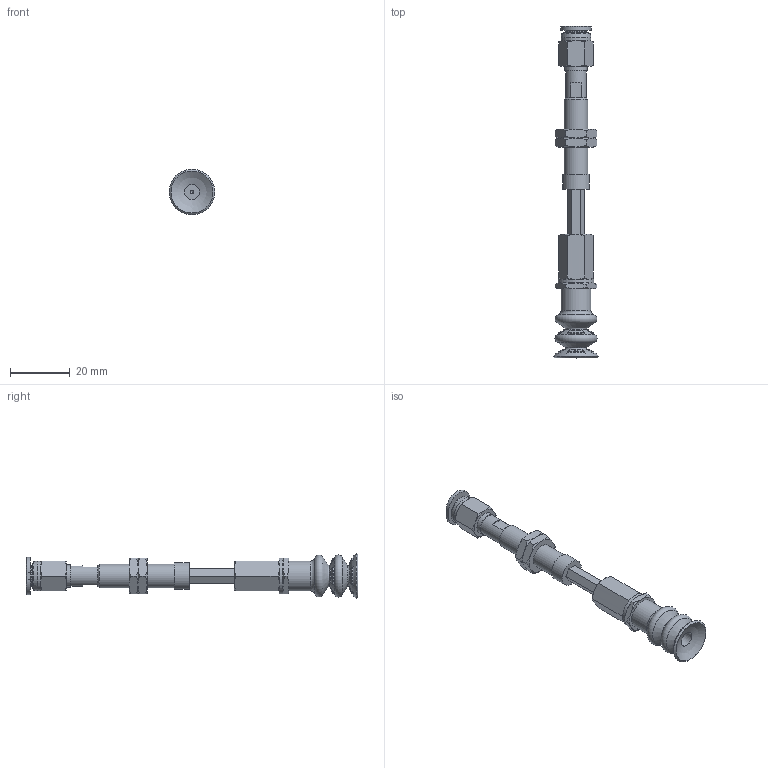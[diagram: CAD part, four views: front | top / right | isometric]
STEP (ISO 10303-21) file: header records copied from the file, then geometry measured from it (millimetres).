
FILE_DESCRIPTION(('STEP AP203'),'1');
FILE_NAME('-O.stp','2025-08-27T01:54:03',(' '),(' '),'Spatial InterOp 3D',' ',' ');
FILE_SCHEMA(('CONFIG_CONTROL_DESIGN'));
Length unit declared in the file: millimetre
Products named in the file (8): BNABPCTH-15-15-※-O; ADAPTER; NAPCTH-10-15-MBODY; Adapter_napc-15-T; Nut napc_h-15-15; NAPCTH-15-15-FBODY; BPCG-15-※; PC-C_06-M5
Assembly tree (8 placements, depth 2):
  BNABPCTH-15-15-※-O
    ADAPTER
    NAPCTH-10-15-MBODY
    Adapter_napc-15-T
    Nut napc_h-15-15  x2
    NAPCTH-15-15-FBODY
    BPCG-15-※
    PC-C_06-M5
Bounding box: 15.2 x 110.68 x 15.2 mm (x, y, z)
Volume: 6056.3 mm3; surface area: 7303.6 mm2
Topology: 7 solids, 10 shells, 281 faces, 789 edges, 504 vertices
Faces by surface type: cone 79, plane 77, sphere 58, torus 36, cylinder 24, bspline 4, revolution 3
Full cylindrical faces by diameter (mm): 1.25 x1, 4 x2, 4.134 x2, 5 x6, 7 x2, 7.188 x2, 7.4 x1, 8 x1, 8.2 x1, 9 x1, 10 x2, 12 x1
Entity records: 8155 total; most frequent: CARTESIAN_POINT 2466, DIRECTION 1135, ORIENTED_EDGE 990, AXIS2_PLACEMENT_3D 526, EDGE_CURVE 497, EDGE_LOOP 358, VERTEX_POINT 346, CIRCLE 267
